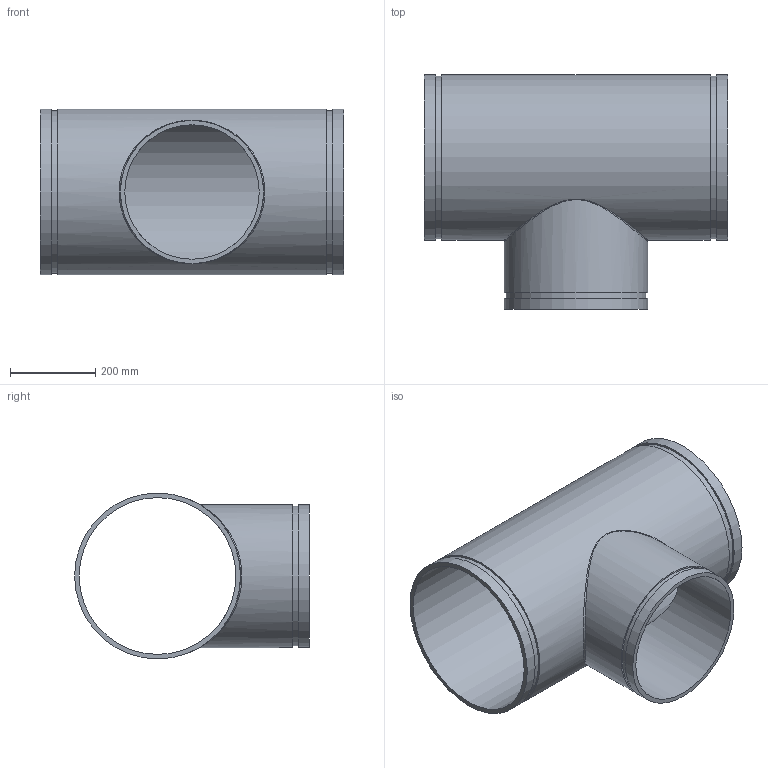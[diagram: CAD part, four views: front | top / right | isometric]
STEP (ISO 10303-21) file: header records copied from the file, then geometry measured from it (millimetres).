
FILE_DESCRIPTION(/* description */ ('VIC REDUCING TEE No 25-C','CAx-IF Rec.Pracs.---Representation and Presentation of Product Manufacturing Information (PMI)---4.0---2014-10-13'),/* implementation_level */ '2;1');
FILE_NAME(/* name */ 'C:\Users\Vjadhav\AppData\Roaming\Autodesk\ApplicationPlugins\Back Up\Victaulic_AWWA_Tee Reducing_No 25-C (DRG)\Victaulic_AWWA_Tee Reducing_No 25-C (DRG)_14.0x12.0 (350x300).stp',/* time_stamp */ '2020-08-18T18:18:11+06:00',/* author */ ('CORINNE GRAY'),/* organization */ ('Victaulic'),/* preprocessor_version */ 'ST-DEVELOPER v17.2',/* originating_system */ 'Autodesk Inventor 2019',/* authorisation */ '');
FILE_SCHEMA (('AP242_MANAGED_MODEL_BASED_3D_ENGINEERING_MIM_LF { 1 0 10303 442 1 1 4 }'));
Length unit declared in the file: inch
Products named in the file (1): 25C-14.0x12.0
Bounding box: 711.2 x 549.91 x 388.62 mm (x, y, z)
Volume: 9958846.5 mm3; surface area: 1988912.3 mm2
Topology: 1 solids, 1 shells, 20 faces, 44 edges, 33 vertices
Faces by surface type: cylinder 10, plane 9, bspline 1
Full cylindrical faces by diameter (mm): 314.96 x1, 327.812 x1, 335.28 x2, 367.284 x1, 380.213 x2, 388.62 x3
Entity records: 1187 total; most frequent: CARTESIAN_POINT 563, DIRECTION 135, ORIENTED_EDGE 90, AXIS2_PLACEMENT_3D 62, EDGE_CURVE 45, VERTEX_POINT 34, EDGE_LOOP 31, CIRCLE 29
